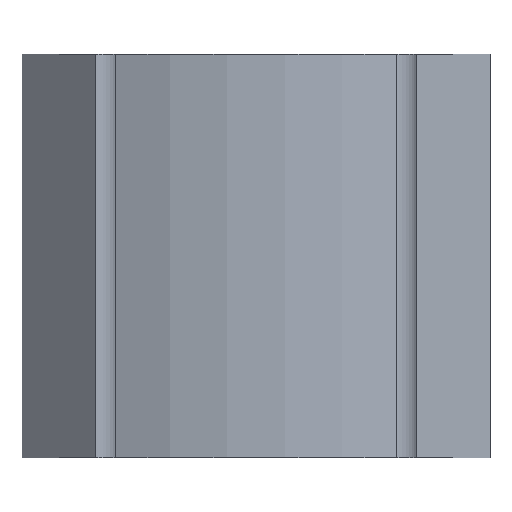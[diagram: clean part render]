
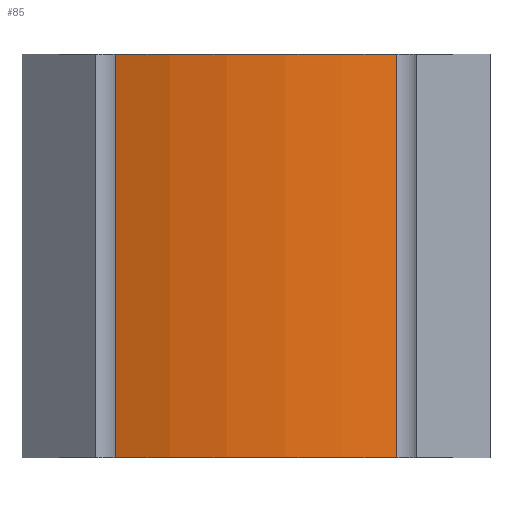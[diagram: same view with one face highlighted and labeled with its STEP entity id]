
A CAD part, front view. The second image highlights one B-rep face of the part: STEP entity #85.
In plain terms, the highlighted cylindrical face has radius 91.5 mm (diameter 183 mm), a partial arc.
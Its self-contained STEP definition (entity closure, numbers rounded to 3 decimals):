
#8 = ORIENTED_EDGE ( 'NONE', *, *, #233, .F. ) ;
#11 = AXIS2_PLACEMENT_3D ( 'NONE', #244, #35, #278 ) ;
#35 = DIRECTION ( 'NONE',  ( 0., 0., 1. ) ) ;
#48 = VECTOR ( 'NONE', #54, 1000. ) ;
#52 = CIRCLE ( 'NONE', #11, 91.5 ) ;
#54 = DIRECTION ( 'NONE',  ( 0., 0., -1. ) ) ;
#59 = VERTEX_POINT ( 'NONE', #122 ) ;
#67 = ORIENTED_EDGE ( 'NONE', *, *, #182, .T. ) ;
#68 = CARTESIAN_POINT ( 'NONE',  ( 34.806, -16.476, 50. ) ) ;
#71 = CARTESIAN_POINT ( 'NONE',  ( -34.806, -16.476, 50. ) ) ;
#76 = ORIENTED_EDGE ( 'NONE', *, *, #99, .T. ) ;
#85 = ADVANCED_FACE ( 'NONE', ( #327 ), #313, .T. ) ;
#86 = LINE ( 'NONE', #68, #247 ) ;
#88 = CARTESIAN_POINT ( 'NONE',  ( 34.806, -16.476, -50. ) ) ;
#99 = EDGE_CURVE ( 'NONE', #300, #59, #410, .T. ) ;
#122 = CARTESIAN_POINT ( 'NONE',  ( -34.806, -16.476, -50. ) ) ;
#135 = CARTESIAN_POINT ( 'NONE',  ( 0., 68.146, -50. ) ) ;
#165 = CARTESIAN_POINT ( 'NONE',  ( 34.806, -16.476, 50. ) ) ;
#168 = DIRECTION ( 'NONE',  ( 1., 0., 0. ) ) ;
#169 = VERTEX_POINT ( 'NONE', #165 ) ;
#173 = AXIS2_PLACEMENT_3D ( 'NONE', #135, #380, #168 ) ;
#176 = CIRCLE ( 'NONE', #173, 91.5 ) ;
#182 = EDGE_CURVE ( 'NONE', #59, #415, #176, .T. ) ;
#188 = CARTESIAN_POINT ( 'NONE',  ( 0., 68.146, 50. ) ) ;
#222 = DIRECTION ( 'NONE',  ( -1., 0., 0. ) ) ;
#224 = CARTESIAN_POINT ( 'NONE',  ( -34.806, -16.476, 50. ) ) ;
#233 = EDGE_CURVE ( 'NONE', #169, #415, #86, .T. ) ;
#238 = DIRECTION ( 'NONE',  ( 0., 0., -1. ) ) ;
#242 = AXIS2_PLACEMENT_3D ( 'NONE', #188, #334, #222 ) ;
#244 = CARTESIAN_POINT ( 'NONE',  ( 0., 68.146, 50. ) ) ;
#247 = VECTOR ( 'NONE', #238, 1000. ) ;
#278 = DIRECTION ( 'NONE',  ( 1., 0., 0. ) ) ;
#280 = EDGE_CURVE ( 'NONE', #300, #169, #52, .T. ) ;
#300 = VERTEX_POINT ( 'NONE', #71 ) ;
#313 = CYLINDRICAL_SURFACE ( 'NONE', #242, 91.5 ) ;
#327 = FACE_OUTER_BOUND ( 'NONE', #430, .T. ) ;
#334 = DIRECTION ( 'NONE',  ( 0., 0., -1. ) ) ;
#353 = ORIENTED_EDGE ( 'NONE', *, *, #280, .F. ) ;
#380 = DIRECTION ( 'NONE',  ( 0., 0., 1. ) ) ;
#410 = LINE ( 'NONE', #224, #48 ) ;
#415 = VERTEX_POINT ( 'NONE', #88 ) ;
#430 = EDGE_LOOP ( 'NONE', ( #67, #8, #353, #76 ) ) ;
